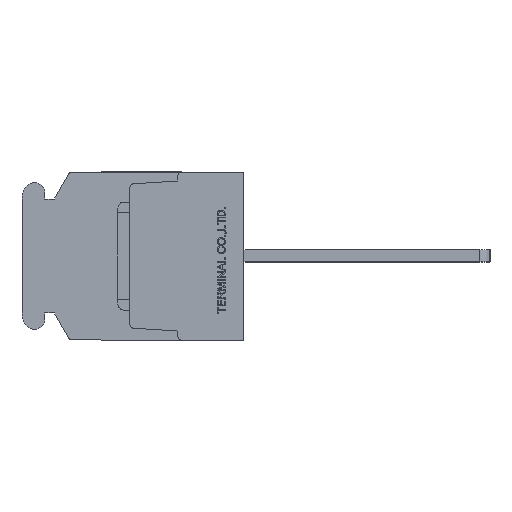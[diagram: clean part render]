
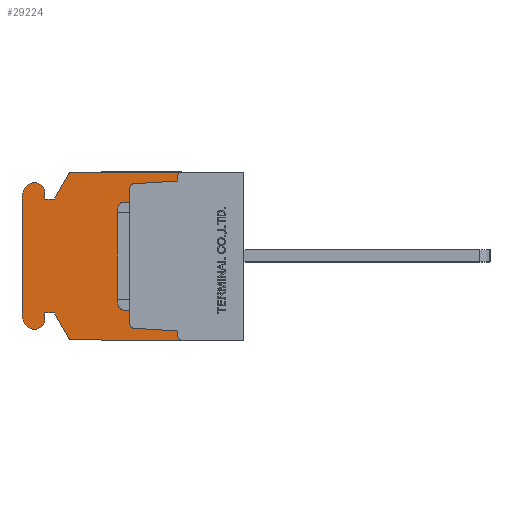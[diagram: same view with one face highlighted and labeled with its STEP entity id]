
A CAD part, left-side view. The second image highlights one B-rep face of the part: STEP entity #29224.
In plain terms, the highlighted planar face has unit normal (-1, 0, 0).
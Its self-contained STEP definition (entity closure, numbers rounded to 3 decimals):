
#550=CIRCLE('',#29641,0.3);
#551=CIRCLE('',#29645,0.3);
#552=CIRCLE('',#29647,0.3);
#553=CIRCLE('',#29651,0.3);
#1166=CIRCLE('',#31455,0.3);
#1167=CIRCLE('',#31456,0.8);
#1168=CIRCLE('',#31457,1.);
#1169=CIRCLE('',#31458,2.);
#1170=CIRCLE('',#31459,2.);
#1171=CIRCLE('',#31460,1.);
#1172=CIRCLE('',#31461,0.8);
#1173=CIRCLE('',#31462,0.3);
#1574=VERTEX_POINT('',#38236);
#1575=VERTEX_POINT('',#38237);
#1928=VERTEX_POINT('',#39758);
#1929=VERTEX_POINT('',#39762);
#1930=VERTEX_POINT('',#39766);
#1931=VERTEX_POINT('',#39770);
#1932=VERTEX_POINT('',#39774);
#1933=VERTEX_POINT('',#39775);
#1934=VERTEX_POINT('',#39780);
#1935=VERTEX_POINT('',#39784);
#3629=VERTEX_POINT('',#44984);
#3664=VERTEX_POINT('',#45091);
#4122=VERTEX_POINT('',#46522);
#4123=VERTEX_POINT('',#46524);
#4124=VERTEX_POINT('',#46526);
#4125=VERTEX_POINT('',#46528);
#4126=VERTEX_POINT('',#46530);
#4127=VERTEX_POINT('',#46532);
#4128=VERTEX_POINT('',#46534);
#4129=VERTEX_POINT('',#46536);
#4130=VERTEX_POINT('',#46538);
#4131=VERTEX_POINT('',#46540);
#4132=VERTEX_POINT('',#46542);
#4133=VERTEX_POINT('',#46544);
#4134=VERTEX_POINT('',#46546);
#4135=VERTEX_POINT('',#46548);
#4136=VERTEX_POINT('',#46550);
#4137=VERTEX_POINT('',#46552);
#4536=VECTOR('',#31723,1.);
#4945=VECTOR('',#32279,1.);
#4947=VECTOR('',#32282,1.);
#4952=VECTOR('',#32296,1.);
#4954=VECTOR('',#32299,1.);
#6683=VECTOR('',#36280,1.);
#6720=VECTOR('',#36375,1.);
#7300=VECTOR('',#37420,1.);
#7301=VECTOR('',#37421,1.);
#7302=VECTOR('',#37422,1.);
#7303=VECTOR('',#37425,1.);
#7304=VECTOR('',#37430,1.);
#7305=VECTOR('',#37435,1.);
#7306=VECTOR('',#37438,1.);
#7307=VECTOR('',#37439,1.);
#7308=VECTOR('',#37440,1.);
#7758=LINE('',#38235,#4536);
#8167=LINE('',#39761,#4945);
#8169=LINE('',#39765,#4947);
#8174=LINE('',#39779,#4952);
#8176=LINE('',#39783,#4954);
#9905=LINE('',#44985,#6683);
#9942=LINE('',#45090,#6720);
#10522=LINE('',#46523,#7300);
#10523=LINE('',#46525,#7301);
#10524=LINE('',#46527,#7302);
#10525=LINE('',#46531,#7303);
#10526=LINE('',#46537,#7304);
#10527=LINE('',#46543,#7305);
#10528=LINE('',#46547,#7306);
#10529=LINE('',#46549,#7307);
#10530=LINE('',#46551,#7308);
#10980=EDGE_CURVE('',#1574,#1575,#7758,.T.);
#11498=EDGE_CURVE('',#1928,#1574,#550,.T.);
#11500=EDGE_CURVE('',#1929,#1928,#8167,.T.);
#11502=EDGE_CURVE('',#1930,#1929,#8169,.T.);
#11504=EDGE_CURVE('',#1931,#1930,#551,.T.);
#11506=EDGE_CURVE('',#1932,#1933,#552,.T.);
#11509=EDGE_CURVE('',#1934,#1932,#8174,.T.);
#11511=EDGE_CURVE('',#1935,#1934,#8176,.T.);
#11513=EDGE_CURVE('',#1575,#1935,#553,.T.);
#13969=EDGE_CURVE('',#3629,#1933,#9905,.T.);
#14022=EDGE_CURVE('',#1931,#3664,#9942,.T.);
#14816=EDGE_CURVE('',#4122,#3629,#1166,.T.);
#14817=EDGE_CURVE('',#4123,#4122,#10522,.T.);
#14818=EDGE_CURVE('',#4124,#4123,#10523,.T.);
#14819=EDGE_CURVE('',#4125,#4124,#10524,.T.);
#14820=EDGE_CURVE('',#4126,#4125,#1167,.T.);
#14821=EDGE_CURVE('',#4127,#4126,#10525,.T.);
#14822=EDGE_CURVE('',#4128,#4127,#1168,.T.);
#14823=EDGE_CURVE('',#4129,#4128,#1169,.T.);
#14824=EDGE_CURVE('',#4130,#4129,#10526,.T.);
#14825=EDGE_CURVE('',#4131,#4130,#1170,.T.);
#14826=EDGE_CURVE('',#4132,#4131,#1171,.T.);
#14827=EDGE_CURVE('',#4133,#4132,#10527,.T.);
#14828=EDGE_CURVE('',#4134,#4133,#1172,.T.);
#14829=EDGE_CURVE('',#4135,#4134,#10528,.T.);
#14830=EDGE_CURVE('',#4136,#4135,#10529,.T.);
#14831=EDGE_CURVE('',#4137,#4136,#10530,.T.);
#14832=EDGE_CURVE('',#3664,#4137,#1173,.T.);
#23055=ORIENTED_EDGE('',*,*,#11506,.T.);
#23056=ORIENTED_EDGE('',*,*,#13969,.F.);
#23057=ORIENTED_EDGE('',*,*,#14816,.F.);
#23058=ORIENTED_EDGE('',*,*,#14817,.F.);
#23059=ORIENTED_EDGE('',*,*,#14818,.F.);
#23060=ORIENTED_EDGE('',*,*,#14819,.F.);
#23061=ORIENTED_EDGE('',*,*,#14820,.F.);
#23062=ORIENTED_EDGE('',*,*,#14821,.F.);
#23063=ORIENTED_EDGE('',*,*,#14822,.F.);
#23064=ORIENTED_EDGE('',*,*,#14823,.F.);
#23065=ORIENTED_EDGE('',*,*,#14824,.F.);
#23066=ORIENTED_EDGE('',*,*,#14825,.F.);
#23067=ORIENTED_EDGE('',*,*,#14826,.F.);
#23068=ORIENTED_EDGE('',*,*,#14827,.F.);
#23069=ORIENTED_EDGE('',*,*,#14828,.F.);
#23070=ORIENTED_EDGE('',*,*,#14829,.F.);
#23071=ORIENTED_EDGE('',*,*,#14830,.F.);
#23072=ORIENTED_EDGE('',*,*,#14831,.F.);
#23073=ORIENTED_EDGE('',*,*,#14832,.F.);
#23074=ORIENTED_EDGE('',*,*,#14022,.F.);
#23075=ORIENTED_EDGE('',*,*,#11504,.T.);
#23076=ORIENTED_EDGE('',*,*,#11502,.T.);
#23077=ORIENTED_EDGE('',*,*,#11500,.T.);
#23078=ORIENTED_EDGE('',*,*,#11498,.T.);
#23079=ORIENTED_EDGE('',*,*,#10980,.T.);
#23080=ORIENTED_EDGE('',*,*,#11513,.T.);
#23081=ORIENTED_EDGE('',*,*,#11511,.T.);
#23082=ORIENTED_EDGE('',*,*,#11509,.T.);
#25804=EDGE_LOOP('',(#23055,#23056,#23057,#23058,#23059,#23060,#23061,#23062,
#23063,#23064,#23065,#23066,#23067,#23068,#23069,#23070,#23071,#23072,#23073,
#23074,#23075,#23076,#23077,#23078,#23079,#23080,#23081,#23082));
#27578=FACE_BOUND('',#25804,.T.);
#29224=ADVANCED_FACE('',(#27578),#49233,.F.);
#29641=AXIS2_PLACEMENT_3D('',#39757,#32275,#32276);
#29645=AXIS2_PLACEMENT_3D('',#39769,#32286,#32287);
#29647=AXIS2_PLACEMENT_3D('',#39773,#32291,#32292);
#29651=AXIS2_PLACEMENT_3D('',#39787,#32303,#32304);
#31454=AXIS2_PLACEMENT_3D('',#46520,#37417,$);
#31455=AXIS2_PLACEMENT_3D('',#46521,#37418,#37419);
#31456=AXIS2_PLACEMENT_3D('',#46529,#37423,#37424);
#31457=AXIS2_PLACEMENT_3D('',#46533,#37426,#37427);
#31458=AXIS2_PLACEMENT_3D('',#46535,#37428,#37429);
#31459=AXIS2_PLACEMENT_3D('',#46539,#37431,#37432);
#31460=AXIS2_PLACEMENT_3D('',#46541,#37433,#37434);
#31461=AXIS2_PLACEMENT_3D('',#46545,#37436,#37437);
#31462=AXIS2_PLACEMENT_3D('',#46553,#37441,#37442);
#31723=DIRECTION('',(0.,0.,1.));
#32275=DIRECTION('',(1.,0.,0.));
#32276=DIRECTION('',(0.,0.,-0.3));
#32279=DIRECTION('',(0.,0.998,0.062));
#32282=DIRECTION('',(0.,0.,1.));
#32286=DIRECTION('',(1.,0.,0.));
#32287=DIRECTION('',(0.,0.,-0.3));
#32291=DIRECTION('',(1.,0.,0.));
#32292=DIRECTION('',(0.,0.,-0.3));
#32296=DIRECTION('',(0.,0.,1.));
#32299=DIRECTION('',(0.,-0.998,0.062));
#32303=DIRECTION('',(1.,0.,0.));
#32304=DIRECTION('',(0.,0.,-0.3));
#36280=DIRECTION('',(0.,-1.,0.));
#36375=DIRECTION('',(0.,1.,0.));
#37417=DIRECTION('',(1.,0.,0.));
#37418=DIRECTION('',(1.,0.,0.));
#37419=DIRECTION('',(0.,0.,-0.3));
#37420=DIRECTION('',(0.,-0.5,0.866));
#37421=DIRECTION('',(0.,-1.,0.));
#37422=DIRECTION('',(0.,0.,-1.));
#37423=DIRECTION('',(1.,0.,0.));
#37424=DIRECTION('',(0.,0.,-0.8));
#37425=DIRECTION('',(0.,-1.,0.));
#37426=DIRECTION('',(1.,0.,0.));
#37427=DIRECTION('',(0.,0.,-1.));
#37428=DIRECTION('',(1.,0.,0.));
#37429=DIRECTION('',(0.,0.,-2.));
#37430=DIRECTION('',(0.,0.,1.));
#37431=DIRECTION('',(1.,0.,0.));
#37432=DIRECTION('',(0.,0.,-2.));
#37433=DIRECTION('',(1.,0.,0.));
#37434=DIRECTION('',(0.,0.,-1.));
#37435=DIRECTION('',(0.,1.,0.));
#37436=DIRECTION('',(1.,0.,0.));
#37437=DIRECTION('',(0.,0.,-0.8));
#37438=DIRECTION('',(0.,0.,-1.));
#37439=DIRECTION('',(0.,1.,0.));
#37440=DIRECTION('',(0.,0.5,0.866));
#37441=DIRECTION('',(1.,0.,0.));
#37442=DIRECTION('',(0.,0.,-0.3));
#38235=CARTESIAN_POINT('',(8.15,9.5,0.));
#38236=CARTESIAN_POINT('',(8.15,9.5,-5.718));
#38237=CARTESIAN_POINT('',(8.15,9.5,5.718));
#39757=CARTESIAN_POINT('',(8.15,9.2,-5.718));
#39758=CARTESIAN_POINT('',(8.15,9.219,-6.018));
#39761=CARTESIAN_POINT('',(8.15,8.522,-6.061));
#39762=CARTESIAN_POINT('',(8.15,5.5,-6.25));
#39765=CARTESIAN_POINT('',(8.15,5.5,-3.237));
#39766=CARTESIAN_POINT('',(8.15,5.5,-6.7));
#39769=CARTESIAN_POINT('',(8.15,5.2,-6.7));
#39770=CARTESIAN_POINT('',(8.15,5.2,-7.));
#39773=CARTESIAN_POINT('',(8.15,5.2,6.7));
#39774=CARTESIAN_POINT('',(8.15,5.5,6.7));
#39775=CARTESIAN_POINT('',(8.15,5.2,7.));
#39779=CARTESIAN_POINT('',(8.15,5.5,3.238));
#39780=CARTESIAN_POINT('',(8.15,5.5,6.25));
#39783=CARTESIAN_POINT('',(8.15,8.522,6.061));
#39784=CARTESIAN_POINT('',(8.15,9.219,6.018));
#39787=CARTESIAN_POINT('',(8.15,9.2,5.718));
#44984=CARTESIAN_POINT('',(8.15,14.327,7.));
#44985=CARTESIAN_POINT('',(8.15,14.327,7.));
#45090=CARTESIAN_POINT('',(8.15,0.,-7.));
#45091=CARTESIAN_POINT('',(8.15,14.327,-7.));
#46520=CARTESIAN_POINT('',(8.15,9.311,0.));
#46521=CARTESIAN_POINT('',(8.15,14.327,6.7));
#46522=CARTESIAN_POINT('',(8.15,14.587,6.85));
#46523=CARTESIAN_POINT('',(8.15,15.8,4.75));
#46524=CARTESIAN_POINT('',(8.15,15.8,4.75));
#46525=CARTESIAN_POINT('',(8.15,16.6,4.75));
#46526=CARTESIAN_POINT('',(8.15,16.6,4.75));
#46527=CARTESIAN_POINT('',(8.15,16.6,5.3));
#46528=CARTESIAN_POINT('',(8.15,16.6,5.3));
#46529=CARTESIAN_POINT('',(8.15,17.4,5.3));
#46530=CARTESIAN_POINT('',(8.15,17.4,6.1));
#46531=CARTESIAN_POINT('',(8.15,17.437,6.1));
#46532=CARTESIAN_POINT('',(8.15,17.437,6.1));
#46533=CARTESIAN_POINT('',(8.15,17.437,5.1));
#46534=CARTESIAN_POINT('',(8.15,18.373,5.45));
#46535=CARTESIAN_POINT('',(8.15,16.5,4.75));
#46536=CARTESIAN_POINT('',(8.15,18.5,4.75));
#46537=CARTESIAN_POINT('',(8.15,18.5,-4.75));
#46538=CARTESIAN_POINT('',(8.15,18.5,-4.75));
#46539=CARTESIAN_POINT('',(8.15,16.5,-4.75));
#46540=CARTESIAN_POINT('',(8.15,18.373,-5.45));
#46541=CARTESIAN_POINT('',(8.15,17.437,-5.1));
#46542=CARTESIAN_POINT('',(8.15,17.437,-6.1));
#46543=CARTESIAN_POINT('',(8.15,17.4,-6.1));
#46544=CARTESIAN_POINT('',(8.15,17.4,-6.1));
#46545=CARTESIAN_POINT('',(8.15,17.4,-5.3));
#46546=CARTESIAN_POINT('',(8.15,16.6,-5.3));
#46547=CARTESIAN_POINT('',(8.15,16.6,-4.75));
#46548=CARTESIAN_POINT('',(8.15,16.6,-4.75));
#46549=CARTESIAN_POINT('',(8.15,15.8,-4.75));
#46550=CARTESIAN_POINT('',(8.15,15.8,-4.75));
#46551=CARTESIAN_POINT('',(8.15,14.587,-6.85));
#46552=CARTESIAN_POINT('',(8.15,14.587,-6.85));
#46553=CARTESIAN_POINT('',(8.15,14.327,-6.7));
#49233=PLANE('',#31454);
